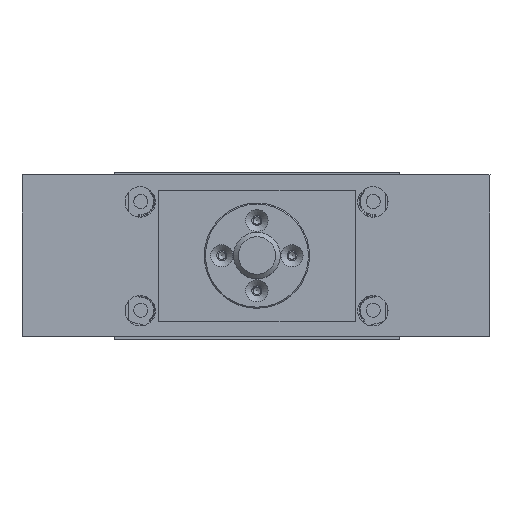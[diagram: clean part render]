
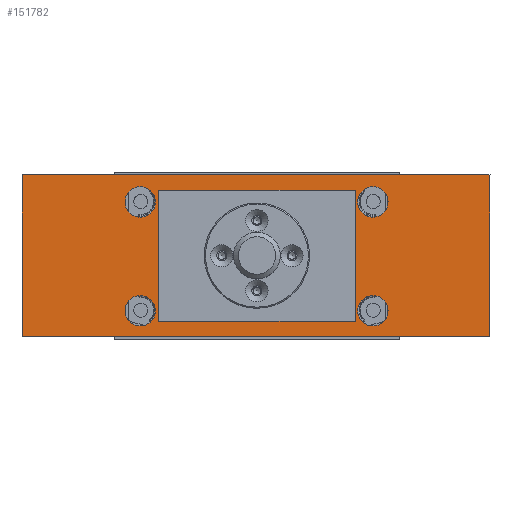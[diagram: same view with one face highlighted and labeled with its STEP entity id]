
A CAD part, top view. The second image highlights one B-rep face of the part: STEP entity #151782.
In plain terms, the highlighted planar face has unit normal (0, 0, 1).
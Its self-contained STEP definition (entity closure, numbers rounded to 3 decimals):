
#3709=LINE('',#268505,#22122);
#3710=LINE('',#268508,#22123);
#3711=LINE('',#268510,#22124);
#3712=LINE('',#268512,#22125);
#22122=VECTOR('',#228056,1000.);
#22123=VECTOR('',#228057,1000.);
#22124=VECTOR('',#228058,1000.);
#22125=VECTOR('',#228059,1000.);
#40535=ORIENTED_EDGE('',*,*,#86609,.F.);
#40536=ORIENTED_EDGE('',*,*,#86610,.F.);
#40537=ORIENTED_EDGE('',*,*,#86611,.F.);
#40538=ORIENTED_EDGE('',*,*,#86612,.F.);
#40539=ORIENTED_EDGE('',*,*,#86613,.T.);
#40540=ORIENTED_EDGE('',*,*,#86614,.T.);
#40541=ORIENTED_EDGE('',*,*,#86615,.T.);
#40542=ORIENTED_EDGE('',*,*,#86616,.T.);
#86609=EDGE_CURVE('',#109646,#109646,#124889,.T.);
#86610=EDGE_CURVE('',#109647,#109647,#124890,.T.);
#86611=EDGE_CURVE('',#109648,#109648,#124891,.T.);
#86612=EDGE_CURVE('',#109649,#109649,#124892,.T.);
#86613=EDGE_CURVE('',#109650,#109651,#3709,.T.);
#86614=EDGE_CURVE('',#109651,#109652,#3710,.T.);
#86615=EDGE_CURVE('',#109652,#109653,#3711,.T.);
#86616=EDGE_CURVE('',#109653,#109650,#3712,.T.);
#109646=VERTEX_POINT('',#268498);
#109647=VERTEX_POINT('',#268500);
#109648=VERTEX_POINT('',#268502);
#109649=VERTEX_POINT('',#268504);
#109650=VERTEX_POINT('',#268506);
#109651=VERTEX_POINT('',#268507);
#109652=VERTEX_POINT('',#268509);
#109653=VERTEX_POINT('',#268511);
#124889=CIRCLE('',#217027,6.5);
#124890=CIRCLE('',#217028,6.5);
#124891=CIRCLE('',#217029,6.5);
#124892=CIRCLE('',#217030,6.5);
#127504=EDGE_LOOP('',(#40535));
#127505=EDGE_LOOP('',(#40536));
#127506=EDGE_LOOP('',(#40537));
#127507=EDGE_LOOP('',(#40538));
#127508=EDGE_LOOP('',(#40539,#40540,#40541,#40542));
#136324=FACE_BOUND('',#127504,.T.);
#136325=FACE_BOUND('',#127505,.T.);
#136326=FACE_BOUND('',#127506,.T.);
#136327=FACE_BOUND('',#127507,.T.);
#136328=FACE_BOUND('',#127508,.T.);
#145148=PLANE('',#217026);
#151782=ADVANCED_FACE('',(#136324,#136325,#136326,#136327,#136328),#145148,
 .F.);
#217026=AXIS2_PLACEMENT_3D('',#268496,#228046,#228047);
#217027=AXIS2_PLACEMENT_3D('',#268497,#228048,#228049);
#217028=AXIS2_PLACEMENT_3D('',#268499,#228050,#228051);
#217029=AXIS2_PLACEMENT_3D('',#268501,#228052,#228053);
#217030=AXIS2_PLACEMENT_3D('',#268503,#228054,#228055);
#228046=DIRECTION('',(0.,0.,-1.));
#228047=DIRECTION('',(-1.,0.,0.));
#228048=DIRECTION('',(0.,0.,1.));
#228049=DIRECTION('',(1.,0.,0.));
#228050=DIRECTION('',(0.,0.,1.));
#228051=DIRECTION('',(1.,0.,0.));
#228052=DIRECTION('',(0.,0.,1.));
#228053=DIRECTION('',(1.,0.,0.));
#228054=DIRECTION('',(0.,0.,1.));
#228055=DIRECTION('',(1.,0.,0.));
#228056=DIRECTION('',(1.,0.,0.));
#228057=DIRECTION('',(0.,1.,0.));
#228058=DIRECTION('',(-1.,0.,0.));
#228059=DIRECTION('',(0.,-1.,0.));
#268496=CARTESIAN_POINT('',(0.,0.,1.048));
#268497=CARTESIAN_POINT('',(149.946,57.549,1.048));
#268498=CARTESIAN_POINT('',(156.446,57.549,1.048));
#268499=CARTESIAN_POINT('',(149.946,11.049,1.048));
#268500=CARTESIAN_POINT('',(156.446,11.049,1.048));
#268501=CARTESIAN_POINT('',(50.546,57.549,1.048));
#268502=CARTESIAN_POINT('',(57.046,57.549,1.048));
#268503=CARTESIAN_POINT('',(50.546,11.049,1.048));
#268504=CARTESIAN_POINT('',(57.046,11.049,1.048));
#268505=CARTESIAN_POINT('',(0.,0.,1.048));
#268506=CARTESIAN_POINT('',(0.,0.,1.048));
#268507=CARTESIAN_POINT('',(200.,0.,1.048));
#268508=CARTESIAN_POINT('',(200.,0.,1.048));
#268509=CARTESIAN_POINT('',(200.,69.127,1.048));
#268510=CARTESIAN_POINT('',(200.,69.127,1.048));
#268511=CARTESIAN_POINT('',(0.,69.127,1.048));
#268512=CARTESIAN_POINT('',(0.,69.127,1.048));
